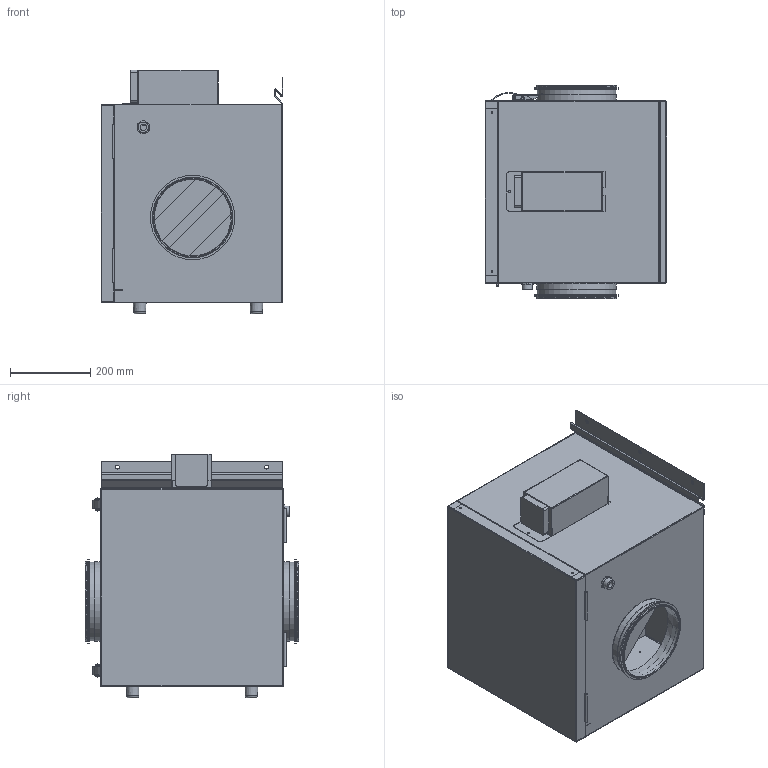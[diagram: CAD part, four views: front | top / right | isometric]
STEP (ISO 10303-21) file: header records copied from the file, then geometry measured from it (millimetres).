
FILE_DESCRIPTION(/* description */ ('Unknown'),/* implementation_level */ '2;1');
FILE_NAME(/* name */ 'Nawilżacz Umecto UNI 600',/* time_stamp */ '2026-03-19T08:37:19+01:00',/* author */ ('Unknown'),/* organization */ ('Unknown'),/* preprocessor_version */ 'ST-DEVELOPER v16.7',/* originating_system */ 'DEX',/* authorisation */ $);
FILE_SCHEMA (('AUTOMOTIVE_DESIGN {1 0 10303 214 3 1 1}'));
Length unit declared in the file: millimetre
Products named in the file (17): 0 Nawil¿acz 600; Wk³ad; Obudowa; Burta; Tyl dol; czujnik; Puszka wysoka; stopka; Uszczelka; moc reku ty³ nowy; moc reku œciana nowy; Przed逝磬a 6; Nagrzewnica 1000; kolnierz 200 15.11.24; drzwi; zawias duzy; Sterownik
Assembly tree (26 placements, depth 2):
  0 Nawil¿acz 600
    Wk³ad  x2
    Obudowa
    Burta  x2
    Tyl dol
    czujnik  x2
    Puszka wysoka
    stopka  x4
    Uszczelka  x2
    moc reku ty³ nowy
    moc reku œciana nowy
    Przed逝磬a 6
    Nagrzewnica 1000  x2
    kolnierz 200 15.11.24  x2
    drzwi
    zawias duzy  x2
    Sterownik
Bounding box: 452.2 x 530.83 x 606.6 mm (x, y, z)
Volume: 24089604.8 mm3; surface area: 4022290.1 mm2
Topology: 34 solids, 34 shells, 903 faces, 2298 edges, 1508 vertices
Faces by surface type: plane 498, cylinder 364, torus 24, bspline 9, cone 8
Full cylindrical faces by diameter (mm): 3 x4, 3.7 x6, 4 x13, 4.1 x12, 4.6 x12, 4.7 x39, 5 x20, 5.3 x8, 6 x4, 6.4 x1, 6.5 x7, 7 x1, 7.4 x10, 9.5 x3, 10 x4, 16 x3, 22 x2, 24.1 x1, 26 x1, 28 x1, 196.06 x2, 198.5 x4, 199 x2, 200 x6, 210 x4
Entity records: 21112 total; most frequent: CARTESIAN_POINT 3670, DIRECTION 3542, ORIENTED_EDGE 3160, EDGE_CURVE 1580, AXIS2_PLACEMENT_3D 1280, VERTEX_POINT 1094, EDGE_LOOP 1088, FACE_BOUND 1088
